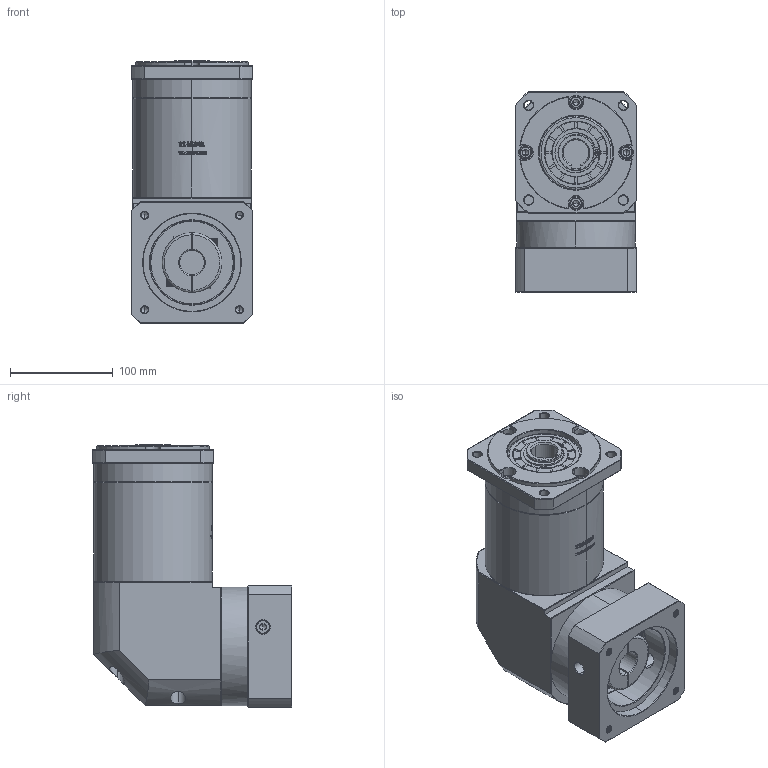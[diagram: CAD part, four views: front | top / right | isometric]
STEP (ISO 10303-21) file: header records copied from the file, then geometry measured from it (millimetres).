
FILE_DESCRIPTION (( 'STEP AP214' ), '1' );
FILE_NAME ('ZFR120A-K25-L3-24-95-130-M8.step', '2023-03-08T08:34:13', ( '' ), ( '' ), 'SwSTEP 2.0', 'SolidWorks 2016', '' );
FILE_SCHEMA (( 'AUTOMOTIVE_DESIGN' ));
Length unit declared in the file: millimetre
Products named in the file (1): ZFR120A-K25-L3-24-95-130-M8
Bounding box: 118 x 193.9 x 255 mm (x, y, z)
Volume: 3442056.5 mm3; surface area: 262268.5 mm2
Topology: 6 solids, 6 shells, 2814 faces, 7535 edges, 4866 vertices
Faces by surface type: plane 1477, bspline 597, cylinder 401, cone 331, torus 8
Entity records: 152484 total; most frequent: CARTESIAN_POINT 56817, ORIENTED_EDGE 15014, DIRECTION 10945, EDGE_CURVE 7507, VERTEX_POINT 4866, VECTOR 4697, LINE 4697, AXIS2_PLACEMENT_3D 3124
